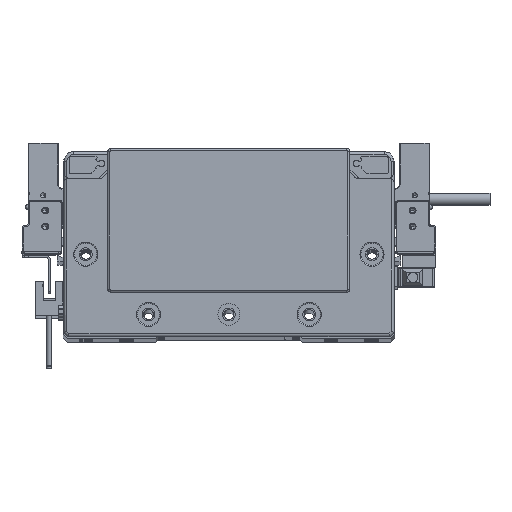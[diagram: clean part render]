
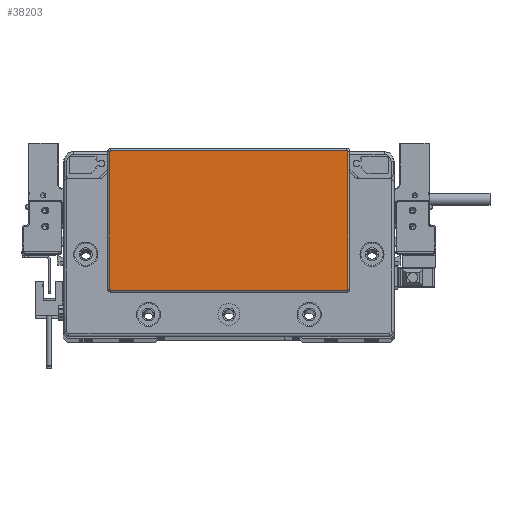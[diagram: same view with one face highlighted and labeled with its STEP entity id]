
A CAD part, top view. The second image highlights one B-rep face of the part: STEP entity #38203.
In plain terms, the highlighted planar face has unit normal (0, 0, 1) as drawn and (0, 0, -1) by its records, which use the part's own axes.
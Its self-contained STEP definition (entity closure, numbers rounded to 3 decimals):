
#2907 = AXIS2_PLACEMENT_3D ( 'NONE', #62001, #40789, #26161 ) ;
#3005 = DIRECTION ( 'NONE',  ( -1., 0., 0. ) ) ;
#3361 = LINE ( 'NONE', #9505, #48911 ) ;
#3398 = AXIS2_PLACEMENT_3D ( 'NONE', #59128, #60538, #3005 ) ;
#3522 = DIRECTION ( 'NONE',  ( -1., 0., 0. ) ) ;
#4795 = VERTEX_POINT ( 'NONE', #57816 ) ;
#7693 = ORIENTED_EDGE ( 'NONE', *, *, #84904, .T. ) ;
#9505 = CARTESIAN_POINT ( 'NONE',  ( 59.25, -23.3, -2. ) ) ;
#12253 = VERTEX_POINT ( 'NONE', #14804 ) ;
#13681 = AXIS2_PLACEMENT_3D ( 'NONE', #76169, #83231, #18656 ) ;
#14511 = CIRCLE ( 'NONE', #67213, 0.5 ) ;
#14804 = CARTESIAN_POINT ( 'NONE',  ( 58.75, -23.8, -2. ) ) ;
#15349 = VERTEX_POINT ( 'NONE', #19900 ) ;
#16332 = CARTESIAN_POINT ( 'NONE',  ( -59.25, 45.3, -2. ) ) ;
#16408 = EDGE_CURVE ( 'NONE', #4795, #15349, #57247, .T. ) ;
#16489 = CIRCLE ( 'NONE', #13681, 0.5 ) ;
#18477 = DIRECTION ( 'NONE',  ( 0., 0., -1. ) ) ;
#18656 = DIRECTION ( 'NONE',  ( -1., 0., 0. ) ) ;
#19617 = CARTESIAN_POINT ( 'NONE',  ( 59.25, 45.3, -2. ) ) ;
#19874 = EDGE_CURVE ( 'NONE', #81992, #71543, #37314, .T. ) ;
#19900 = CARTESIAN_POINT ( 'NONE',  ( 58.75, 45.8, -2. ) ) ;
#22244 = CARTESIAN_POINT ( 'NONE',  ( -59.25, 45.3, -2. ) ) ;
#26161 = DIRECTION ( 'NONE',  ( -1., 0., 0. ) ) ;
#27375 = VERTEX_POINT ( 'NONE', #46333 ) ;
#29377 = AXIS2_PLACEMENT_3D ( 'NONE', #68143, #81787, #3522 ) ;
#31687 = DIRECTION ( 'NONE',  ( 0., -1., 0. ) ) ;
#33415 = ORIENTED_EDGE ( 'NONE', *, *, #76714, .T. ) ;
#35189 = EDGE_LOOP ( 'NONE', ( #53806, #47819, #63978, #7693, #47836, #69281, #57971, #33415 ) ) ;
#37314 = LINE ( 'NONE', #22244, #44804 ) ;
#38203 = ADVANCED_FACE ( 'NONE', ( #38370 ), #66683, .T. ) ;
#38370 = FACE_OUTER_BOUND ( 'NONE', #35189, .T. ) ;
#40178 = CARTESIAN_POINT ( 'NONE',  ( -58.75, 45.3, -2. ) ) ;
#40789 = DIRECTION ( 'NONE',  ( 0., 0., -1. ) ) ;
#41911 = EDGE_CURVE ( 'NONE', #92987, #85846, #3361, .T. ) ;
#43198 = EDGE_CURVE ( 'NONE', #12253, #27375, #84094, .T. ) ;
#44804 = VECTOR ( 'NONE', #87295, 1000. ) ;
#44807 = EDGE_CURVE ( 'NONE', #71543, #4795, #14511, .T. ) ;
#45947 = CIRCLE ( 'NONE', #29377, 0.5 ) ;
#46333 = CARTESIAN_POINT ( 'NONE',  ( -58.75, -23.8, -2. ) ) ;
#46899 = CARTESIAN_POINT ( 'NONE',  ( -58.75, -23.8, -2. ) ) ;
#47250 = DIRECTION ( 'NONE',  ( -1., 0., 0. ) ) ;
#47819 = ORIENTED_EDGE ( 'NONE', *, *, #81211, .T. ) ;
#47836 = ORIENTED_EDGE ( 'NONE', *, *, #19874, .T. ) ;
#48281 = DIRECTION ( 'NONE',  ( -1., 0., 0. ) ) ;
#48911 = VECTOR ( 'NONE', #31687, 1000. ) ;
#50178 = CARTESIAN_POINT ( 'NONE',  ( 58.75, 45.8, -2. ) ) ;
#52452 = VECTOR ( 'NONE', #78910, 1000. ) ;
#53609 = VECTOR ( 'NONE', #48281, 1000. ) ;
#53647 = CARTESIAN_POINT ( 'NONE',  ( -59.25, -23.3, -2. ) ) ;
#53806 = ORIENTED_EDGE ( 'NONE', *, *, #41911, .T. ) ;
#56557 = CARTESIAN_POINT ( 'NONE',  ( 59.25, -23.3, -2. ) ) ;
#57247 = LINE ( 'NONE', #50178, #52452 ) ;
#57816 = CARTESIAN_POINT ( 'NONE',  ( -58.75, 45.8, -2. ) ) ;
#57971 = ORIENTED_EDGE ( 'NONE', *, *, #16408, .T. ) ;
#59128 = CARTESIAN_POINT ( 'NONE',  ( 0., 0., -2. ) ) ;
#60538 = DIRECTION ( 'NONE',  ( 0., 0., -1. ) ) ;
#62001 = CARTESIAN_POINT ( 'NONE',  ( -58.75, -23.3, -2. ) ) ;
#63978 = ORIENTED_EDGE ( 'NONE', *, *, #43198, .T. ) ;
#66683 = PLANE ( 'NONE',  #3398 ) ;
#67213 = AXIS2_PLACEMENT_3D ( 'NONE', #40178, #18477, #47250 ) ;
#67618 = CIRCLE ( 'NONE', #2907, 0.5 ) ;
#68143 = CARTESIAN_POINT ( 'NONE',  ( 58.75, -23.3, -2. ) ) ;
#69281 = ORIENTED_EDGE ( 'NONE', *, *, #44807, .T. ) ;
#71543 = VERTEX_POINT ( 'NONE', #16332 ) ;
#76169 = CARTESIAN_POINT ( 'NONE',  ( 58.75, 45.3, -2. ) ) ;
#76714 = EDGE_CURVE ( 'NONE', #15349, #92987, #16489, .T. ) ;
#78910 = DIRECTION ( 'NONE',  ( 1., 0., 0. ) ) ;
#81211 = EDGE_CURVE ( 'NONE', #85846, #12253, #45947, .T. ) ;
#81787 = DIRECTION ( 'NONE',  ( 0., 0., -1. ) ) ;
#81992 = VERTEX_POINT ( 'NONE', #53647 ) ;
#83231 = DIRECTION ( 'NONE',  ( 0., 0., -1. ) ) ;
#84094 = LINE ( 'NONE', #46899, #53609 ) ;
#84904 = EDGE_CURVE ( 'NONE', #27375, #81992, #67618, .T. ) ;
#85846 = VERTEX_POINT ( 'NONE', #56557 ) ;
#87295 = DIRECTION ( 'NONE',  ( 0., 1., 0. ) ) ;
#92987 = VERTEX_POINT ( 'NONE', #19617 ) ;
